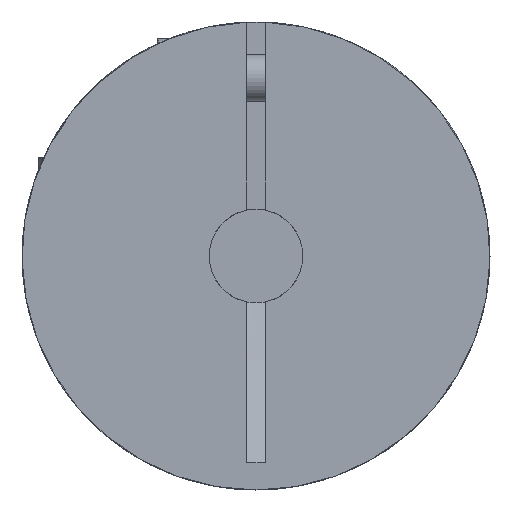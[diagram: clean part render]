
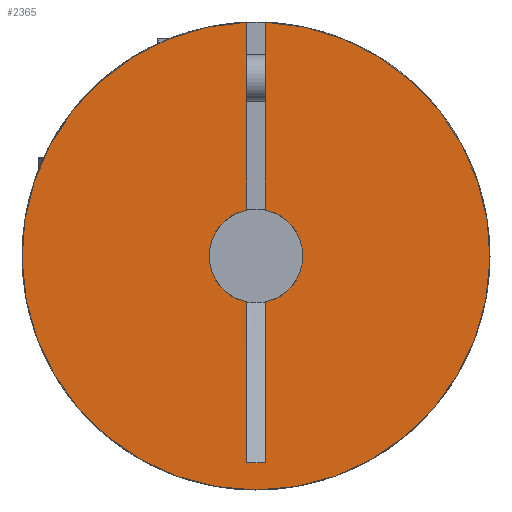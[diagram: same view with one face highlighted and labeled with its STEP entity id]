
A CAD part, left-side view. The second image highlights one B-rep face of the part: STEP entity #2365.
In plain terms, the highlighted planar face has unit normal (-1, 0, 0) as drawn and (0, 0, -1) by its records, which use the part's own axes.
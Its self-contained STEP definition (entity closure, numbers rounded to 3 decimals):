
#31 = CARTESIAN_POINT ( 'NONE',  ( 4.899, 1., 0. ) ) ;
#86 = LINE ( 'NONE', #583, #887 ) ;
#114 = EDGE_LOOP ( 'NONE', ( #696, #1754, #2922, #1587, #2864, #2265, #966, #1255, #421 ) ) ;
#269 = CARTESIAN_POINT ( 'NONE',  ( -4.899, -1., 0. ) ) ;
#291 = EDGE_CURVE ( 'NONE', #524, #2415, #2008, .T. ) ;
#292 = VECTOR ( 'NONE', #3179, 1000. ) ;
#313 = DIRECTION ( 'NONE',  ( -1., 0., 0. ) ) ;
#332 = CIRCLE ( 'NONE', #381, 25. ) ;
#381 = AXIS2_PLACEMENT_3D ( 'NONE', #1200, #3293, #2496 ) ;
#421 = ORIENTED_EDGE ( 'NONE', *, *, #849, .F. ) ;
#425 = EDGE_CURVE ( 'NONE', #1436, #2916, #1518, .T. ) ;
#524 = VERTEX_POINT ( 'NONE', #758 ) ;
#583 = CARTESIAN_POINT ( 'NONE',  ( -25., -1., 0. ) ) ;
#696 = ORIENTED_EDGE ( 'NONE', *, *, #757, .F. ) ;
#710 = DIRECTION ( 'NONE',  ( 1., 0., 0. ) ) ;
#757 = EDGE_CURVE ( 'NONE', #2916, #2134, #86, .T. ) ;
#758 = CARTESIAN_POINT ( 'NONE',  ( 25., 0., 0. ) ) ;
#817 = CARTESIAN_POINT ( 'NONE',  ( 0., 0., 0. ) ) ;
#849 = EDGE_CURVE ( 'NONE', #2134, #524, #332, .T. ) ;
#887 = VECTOR ( 'NONE', #313, 1000. ) ;
#922 = CARTESIAN_POINT ( 'NONE',  ( -25., 1., 0. ) ) ;
#966 = ORIENTED_EDGE ( 'NONE', *, *, #1973, .T. ) ;
#976 = CARTESIAN_POINT ( 'NONE',  ( 22.111, 1., 0. ) ) ;
#1084 = VECTOR ( 'NONE', #2554, 1000. ) ;
#1088 = LINE ( 'NONE', #1103, #1186 ) ;
#1103 = CARTESIAN_POINT ( 'NONE',  ( 22.111, -1., 0. ) ) ;
#1164 = EDGE_CURVE ( 'NONE', #3229, #1386, #3306, .T. ) ;
#1171 = EDGE_CURVE ( 'NONE', #2969, #1386, #1355, .T. ) ;
#1173 = PLANE ( 'NONE',  #1697 ) ;
#1186 = VECTOR ( 'NONE', #3252, 1000. ) ;
#1200 = CARTESIAN_POINT ( 'NONE',  ( 0., 0., 0. ) ) ;
#1255 = ORIENTED_EDGE ( 'NONE', *, *, #291, .F. ) ;
#1292 = AXIS2_PLACEMENT_3D ( 'NONE', #2217, #1490, #1997 ) ;
#1310 = CARTESIAN_POINT ( 'NONE',  ( -24.98, -1., 0. ) ) ;
#1355 = CIRCLE ( 'NONE', #2069, 5. ) ;
#1381 = DIRECTION ( 'NONE',  ( 1., 0., 0. ) ) ;
#1386 = VERTEX_POINT ( 'NONE', #31 ) ;
#1436 = VERTEX_POINT ( 'NONE', #2489 ) ;
#1477 = DIRECTION ( 'NONE',  ( 0., 0., -1. ) ) ;
#1490 = DIRECTION ( 'NONE',  ( 0., 0., -1. ) ) ;
#1518 = CIRCLE ( 'NONE', #1292, 5. ) ;
#1587 = ORIENTED_EDGE ( 'NONE', *, *, #3450, .T. ) ;
#1697 = AXIS2_PLACEMENT_3D ( 'NONE', #1941, #3004, #710 ) ;
#1754 = ORIENTED_EDGE ( 'NONE', *, *, #425, .F. ) ;
#1772 = DIRECTION ( 'NONE',  ( -1., 0., 0. ) ) ;
#1778 = LINE ( 'NONE', #3087, #1084 ) ;
#1922 = CARTESIAN_POINT ( 'NONE',  ( -4.899, 1., 0. ) ) ;
#1941 = CARTESIAN_POINT ( 'NONE',  ( 0., 0., 0. ) ) ;
#1973 = EDGE_CURVE ( 'NONE', #2969, #2415, #1778, .T. ) ;
#1997 = DIRECTION ( 'NONE',  ( -1., 0., 0. ) ) ;
#2008 = CIRCLE ( 'NONE', #2397, 25. ) ;
#2069 = AXIS2_PLACEMENT_3D ( 'NONE', #2783, #1477, #1772 ) ;
#2105 = CARTESIAN_POINT ( 'NONE',  ( -25., -1., 0. ) ) ;
#2134 = VERTEX_POINT ( 'NONE', #1310 ) ;
#2217 = CARTESIAN_POINT ( 'NONE',  ( 0., 0., 0. ) ) ;
#2236 = CARTESIAN_POINT ( 'NONE',  ( -24.98, 1., 0. ) ) ;
#2246 = FACE_OUTER_BOUND ( 'NONE', #114, .T. ) ;
#2253 = VERTEX_POINT ( 'NONE', #2624 ) ;
#2265 = ORIENTED_EDGE ( 'NONE', *, *, #1171, .F. ) ;
#2365 = ADVANCED_FACE ( 'NONE', ( #2246 ), #1173, .F. ) ;
#2397 = AXIS2_PLACEMENT_3D ( 'NONE', #817, #2408, #1381 ) ;
#2408 = DIRECTION ( 'NONE',  ( 0., 0., 1. ) ) ;
#2415 = VERTEX_POINT ( 'NONE', #2236 ) ;
#2489 = CARTESIAN_POINT ( 'NONE',  ( 4.899, -1., 0. ) ) ;
#2496 = DIRECTION ( 'NONE',  ( 1., 0., 0. ) ) ;
#2554 = DIRECTION ( 'NONE',  ( -1., 0., 0. ) ) ;
#2624 = CARTESIAN_POINT ( 'NONE',  ( 22.111, -1., 0. ) ) ;
#2642 = EDGE_CURVE ( 'NONE', #2253, #1436, #2908, .T. ) ;
#2783 = CARTESIAN_POINT ( 'NONE',  ( 0., 0., 0. ) ) ;
#2864 = ORIENTED_EDGE ( 'NONE', *, *, #1164, .T. ) ;
#2908 = LINE ( 'NONE', #2105, #292 ) ;
#2916 = VERTEX_POINT ( 'NONE', #269 ) ;
#2922 = ORIENTED_EDGE ( 'NONE', *, *, #2642, .F. ) ;
#2962 = VECTOR ( 'NONE', #3048, 1000. ) ;
#2969 = VERTEX_POINT ( 'NONE', #1922 ) ;
#3004 = DIRECTION ( 'NONE',  ( 0., 0., 1. ) ) ;
#3048 = DIRECTION ( 'NONE',  ( -1., 0., 0. ) ) ;
#3087 = CARTESIAN_POINT ( 'NONE',  ( -25., 1., 0. ) ) ;
#3179 = DIRECTION ( 'NONE',  ( -1., 0., 0. ) ) ;
#3229 = VERTEX_POINT ( 'NONE', #976 ) ;
#3252 = DIRECTION ( 'NONE',  ( 0., 1., 0. ) ) ;
#3293 = DIRECTION ( 'NONE',  ( 0., 0., 1. ) ) ;
#3306 = LINE ( 'NONE', #922, #2962 ) ;
#3450 = EDGE_CURVE ( 'NONE', #2253, #3229, #1088, .T. ) ;
